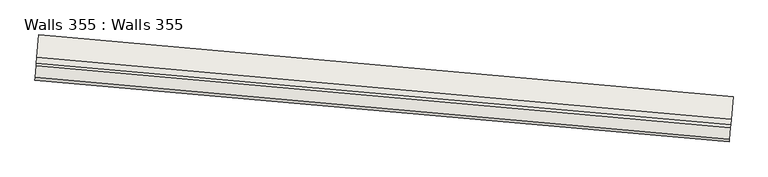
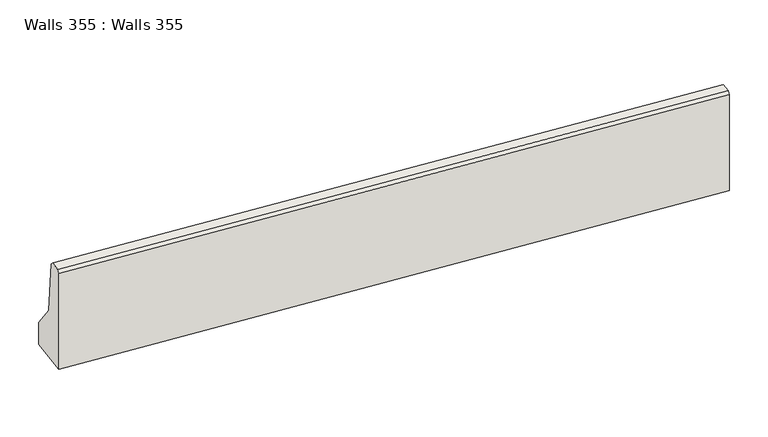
"""IFC4 building model written with IfcOpenShell, lengths in millimetres: wall geometry, Walls 355 : Walls 355."""

from ifc_helpers import new_model, si_unit, frame, origin, place, context, project, spatial, polyline, outline, extrude, source, transform, mapped, element, save


def walls_355_walls_355_6d0c1563(model_context):
    return source(origin(), model_context, "Body", "SweptSolid", [
        extrude(outline(polyline([(636680.0, 400.0000001), (636930.0, 200.0), (637435.0, 150.0000001), (637460.0, 125.0), (637460.0, 25.0), (637435.0, 0.0), (636460.0, 0.0), (636460.0, 400.0000001), (636680.0, 400.0000001)])), frame((-730448.2130317, -414005.7678164, 0.0), z_axis=(-0.9960550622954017, 0.08873732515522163, 0.0), x_axis=(0.0, 0.0, 1.0)), (0.0, 0.0, 1.0), 6149.9999999),
    ])


if __name__ == "__main__":
    model = new_model("IFC4")
    model_context = context("Model", 3, world=origin())
    ifc_project = project(units=[si_unit("LENGTHUNIT", "METRE", prefix="MILLI")], contexts=[model_context])
    site = spatial("IfcSite", under=ifc_project)
    building = spatial("IfcBuilding", under=site)
    placement = place(None, origin())
    walls_355_walls_355_shape = walls_355_walls_355_6d0c1563(model_context)
    element("IfcWall", 1, ObjectType="Walls 355 : Walls 355", at=placement, inside=building, context=model_context, shape_type="MappedRepresentation", body=[
        mapped(walls_355_walls_355_shape, transform((0.0, 0.0, 0.0), x_axis=(1.0, 0.0, 0.0), y_axis=(0.0, 1.0, 0.0), z_axis=(0.0, 0.0, 1.0))),
    ])
    save(model, "model.ifc")
